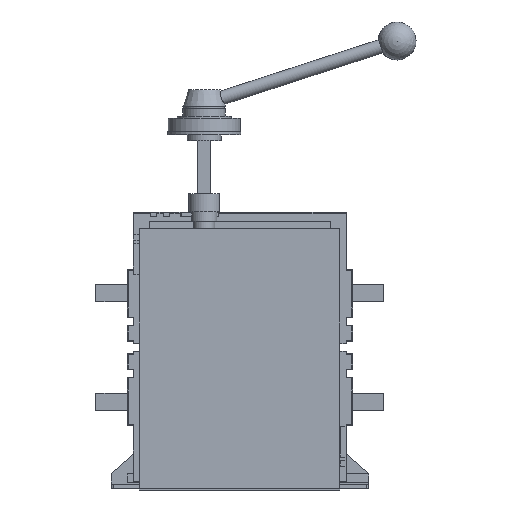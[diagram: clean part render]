
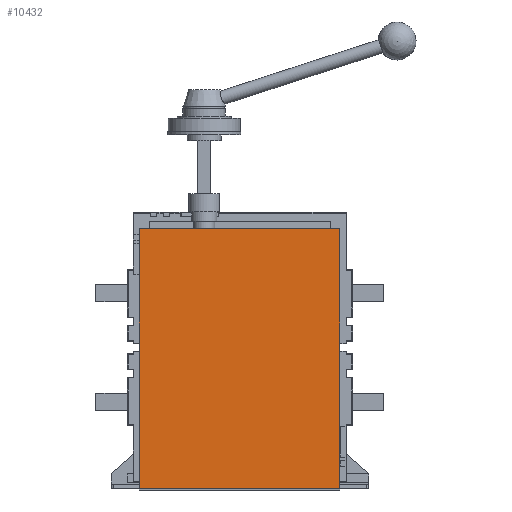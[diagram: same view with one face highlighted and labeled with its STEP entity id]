
A CAD part, left-side view. The second image highlights one B-rep face of the part: STEP entity #10432.
In plain terms, the highlighted planar face has unit normal (-1, 0, 0).
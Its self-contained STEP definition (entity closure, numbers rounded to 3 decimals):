
#1508 = LINE ( 'NONE', #21535, #22468 ) ;
#3061 = ORIENTED_EDGE ( 'NONE', *, *, #20798, .T. ) ;
#4163 = ORIENTED_EDGE ( 'NONE', *, *, #33188, .T. ) ;
#5297 = EDGE_CURVE ( 'NONE', #7574, #7858, #30670, .T. ) ;
#6181 = DIRECTION ( 'NONE',  ( 0., 1., 0. ) ) ;
#6405 = CARTESIAN_POINT ( 'NONE',  ( -197.76, 94.4, 244.1 ) ) ;
#7574 = VERTEX_POINT ( 'NONE', #24418 ) ;
#7858 = VERTEX_POINT ( 'NONE', #31122 ) ;
#10432 = ADVANCED_FACE ( 'NONE', ( #29985 ), #15116, .T. ) ;
#11398 = VERTEX_POINT ( 'NONE', #11560 ) ;
#11560 = CARTESIAN_POINT ( 'NONE',  ( -197.76, -94., 244.1 ) ) ;
#13229 = LINE ( 'NONE', #22313, #27040 ) ;
#15097 = VECTOR ( 'NONE', #16746, 1000. ) ;
#15116 = PLANE ( 'NONE',  #24204 ) ;
#16026 = DIRECTION ( 'NONE',  ( 0., 0., 1. ) ) ;
#16746 = DIRECTION ( 'NONE',  ( 0., 1., 0. ) ) ;
#19032 = VECTOR ( 'NONE', #27887, 1000. ) ;
#19429 = EDGE_CURVE ( 'NONE', #7858, #29004, #1508, .T. ) ;
#20704 = LINE ( 'NONE', #27781, #19032 ) ;
#20798 = EDGE_CURVE ( 'NONE', #7574, #11398, #20704, .T. ) ;
#20888 = DIRECTION ( 'NONE',  ( 0., -1., 0. ) ) ;
#21535 = CARTESIAN_POINT ( 'NONE',  ( -197.76, 94.4, 0. ) ) ;
#21661 = ORIENTED_EDGE ( 'NONE', *, *, #5297, .F. ) ;
#22028 = CARTESIAN_POINT ( 'NONE',  ( -197.76, -94., 0. ) ) ;
#22313 = CARTESIAN_POINT ( 'NONE',  ( -197.76, -94., 244.1 ) ) ;
#22468 = VECTOR ( 'NONE', #16026, 1000. ) ;
#23333 = CARTESIAN_POINT ( 'NONE',  ( -197.76, -94., 0. ) ) ;
#24067 = ORIENTED_EDGE ( 'NONE', *, *, #19429, .F. ) ;
#24204 = AXIS2_PLACEMENT_3D ( 'NONE', #23333, #33926, #20888 ) ;
#24418 = CARTESIAN_POINT ( 'NONE',  ( -197.76, -94., 0. ) ) ;
#27040 = VECTOR ( 'NONE', #6181, 1000. ) ;
#27781 = CARTESIAN_POINT ( 'NONE',  ( -197.76, -94., 0. ) ) ;
#27887 = DIRECTION ( 'NONE',  ( 0., 0., 1. ) ) ;
#28320 = EDGE_LOOP ( 'NONE', ( #24067, #21661, #3061, #4163 ) ) ;
#29004 = VERTEX_POINT ( 'NONE', #6405 ) ;
#29985 = FACE_OUTER_BOUND ( 'NONE', #28320, .T. ) ;
#30670 = LINE ( 'NONE', #22028, #15097 ) ;
#31122 = CARTESIAN_POINT ( 'NONE',  ( -197.76, 94.4, 0. ) ) ;
#33188 = EDGE_CURVE ( 'NONE', #11398, #29004, #13229, .T. ) ;
#33926 = DIRECTION ( 'NONE',  ( -1., 0., 0. ) ) ;
